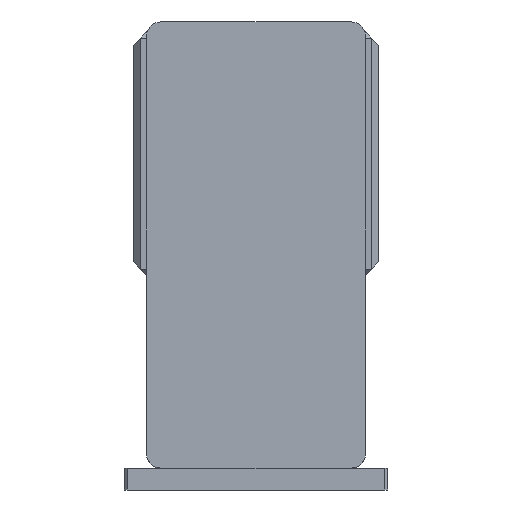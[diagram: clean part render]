
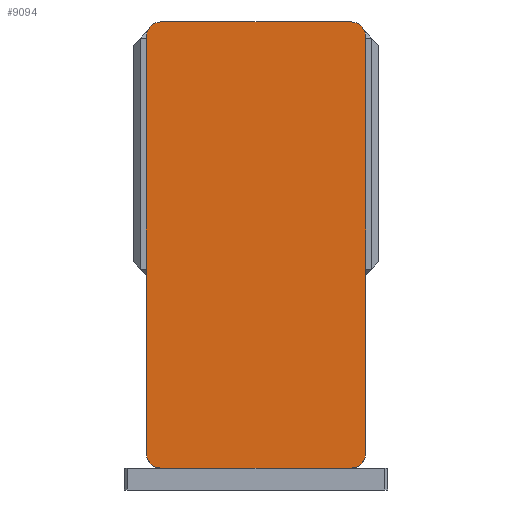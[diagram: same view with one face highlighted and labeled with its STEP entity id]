
A CAD part, left-side view. The second image highlights one B-rep face of the part: STEP entity #9094.
In plain terms, the highlighted planar face has unit normal (-1, 0, 0) as drawn and (0, 0, 1) by its records, which use the part's own axes.
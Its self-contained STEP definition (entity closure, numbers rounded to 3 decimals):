
#150 = DIRECTION ( 'NONE',  ( 0., 0., 1. ) ) ;
#344 = CIRCLE ( 'NONE', #9145, 10. ) ;
#1013 = CARTESIAN_POINT ( 'NONE',  ( -65., 142.5, 105. ) ) ;
#1556 = VERTEX_POINT ( 'NONE', #7847 ) ;
#1647 = ORIENTED_EDGE ( 'NONE', *, *, #9142, .T. ) ;
#1672 = CARTESIAN_POINT ( 'NONE',  ( -65., -152.5, 105. ) ) ;
#1958 = DIRECTION ( 'NONE',  ( 1., 0., 0. ) ) ;
#2082 = CARTESIAN_POINT ( 'NONE',  ( -65., 152.5, 105. ) ) ;
#2151 = CARTESIAN_POINT ( 'NONE',  ( 0., 0., 105. ) ) ;
#2171 = VECTOR ( 'NONE', #9953, 1000. ) ;
#2239 = DIRECTION ( 'NONE',  ( 1., 0., 0. ) ) ;
#2453 = VECTOR ( 'NONE', #2624, 1000. ) ;
#2624 = DIRECTION ( 'NONE',  ( -1., 0., 0. ) ) ;
#2668 = VERTEX_POINT ( 'NONE', #5539 ) ;
#2713 = DIRECTION ( 'NONE',  ( 0., 0., 1. ) ) ;
#3091 = DIRECTION ( 'NONE',  ( 1., 0., 0. ) ) ;
#3147 = LINE ( 'NONE', #9407, #5320 ) ;
#3274 = CIRCLE ( 'NONE', #8078, 10. ) ;
#3444 = VERTEX_POINT ( 'NONE', #1672 ) ;
#3804 = VERTEX_POINT ( 'NONE', #8431 ) ;
#4388 = DIRECTION ( 'NONE',  ( 0., 0., 1. ) ) ;
#4930 = DIRECTION ( 'NONE',  ( 0., -1., 0. ) ) ;
#5320 = VECTOR ( 'NONE', #4930, 1000. ) ;
#5539 = CARTESIAN_POINT ( 'NONE',  ( 65., -152.5, 105. ) ) ;
#5565 = VERTEX_POINT ( 'NONE', #9815 ) ;
#5753 = CARTESIAN_POINT ( 'NONE',  ( -65., -142.5, 105. ) ) ;
#5763 = LINE ( 'NONE', #5938, #10247 ) ;
#5938 = CARTESIAN_POINT ( 'NONE',  ( -75., -152.5, 105. ) ) ;
#6083 = ORIENTED_EDGE ( 'NONE', *, *, #9447, .T. ) ;
#6140 = CARTESIAN_POINT ( 'NONE',  ( -75., 142.5, 105. ) ) ;
#6334 = VERTEX_POINT ( 'NONE', #6140 ) ;
#6495 = ORIENTED_EDGE ( 'NONE', *, *, #6596, .T. ) ;
#6596 = EDGE_CURVE ( 'NONE', #3804, #1556, #11749, .T. ) ;
#6661 = DIRECTION ( 'NONE',  ( 1., 0., 0. ) ) ;
#7003 = ORIENTED_EDGE ( 'NONE', *, *, #9532, .T. ) ;
#7028 = LINE ( 'NONE', #7155, #2453 ) ;
#7155 = CARTESIAN_POINT ( 'NONE',  ( -75., 152.5, 105. ) ) ;
#7203 = CARTESIAN_POINT ( 'NONE',  ( 75., 152.5, 105. ) ) ;
#7223 = EDGE_CURVE ( 'NONE', #8552, #7705, #7028, .T. ) ;
#7408 = ORIENTED_EDGE ( 'NONE', *, *, #7223, .T. ) ;
#7432 = DIRECTION ( 'NONE',  ( 0., 0., 1. ) ) ;
#7612 = PLANE ( 'NONE',  #11644 ) ;
#7680 = ORIENTED_EDGE ( 'NONE', *, *, #9747, .T. ) ;
#7705 = VERTEX_POINT ( 'NONE', #2082 ) ;
#7847 = CARTESIAN_POINT ( 'NONE',  ( 75., 142.5, 105. ) ) ;
#7952 = ORIENTED_EDGE ( 'NONE', *, *, #8297, .T. ) ;
#7955 = CIRCLE ( 'NONE', #10134, 10. ) ;
#8078 = AXIS2_PLACEMENT_3D ( 'NONE', #5753, #150, #6661 ) ;
#8158 = CARTESIAN_POINT ( 'NONE',  ( 65., 142.5, 105. ) ) ;
#8297 = EDGE_CURVE ( 'NONE', #6334, #5565, #3147, .T. ) ;
#8401 = ORIENTED_EDGE ( 'NONE', *, *, #9810, .T. ) ;
#8431 = CARTESIAN_POINT ( 'NONE',  ( 75., -142.5, 105. ) ) ;
#8462 = AXIS2_PLACEMENT_3D ( 'NONE', #1013, #7432, #1958 ) ;
#8474 = EDGE_LOOP ( 'NONE', ( #1647, #6083, #6495, #7003, #7408, #7680, #7952, #8401 ) ) ;
#8528 = DIRECTION ( 'NONE',  ( 0., 0., 1. ) ) ;
#8552 = VERTEX_POINT ( 'NONE', #10602 ) ;
#8679 = CIRCLE ( 'NONE', #8462, 10. ) ;
#9086 = DIRECTION ( 'NONE',  ( 1., 0., 0. ) ) ;
#9094 = ADVANCED_FACE ( 'NONE', ( #11046 ), #7612, .T. ) ;
#9142 = EDGE_CURVE ( 'NONE', #3444, #2668, #5763, .T. ) ;
#9145 = AXIS2_PLACEMENT_3D ( 'NONE', #8158, #2713, #9086 ) ;
#9407 = CARTESIAN_POINT ( 'NONE',  ( -75., 152.5, 105. ) ) ;
#9447 = EDGE_CURVE ( 'NONE', #2668, #3804, #7955, .T. ) ;
#9532 = EDGE_CURVE ( 'NONE', #1556, #8552, #344, .T. ) ;
#9747 = EDGE_CURVE ( 'NONE', #7705, #6334, #8679, .T. ) ;
#9788 = CARTESIAN_POINT ( 'NONE',  ( 65., -142.5, 105. ) ) ;
#9810 = EDGE_CURVE ( 'NONE', #5565, #3444, #3274, .T. ) ;
#9815 = CARTESIAN_POINT ( 'NONE',  ( -75., -142.5, 105. ) ) ;
#9953 = DIRECTION ( 'NONE',  ( 0., 1., 0. ) ) ;
#10134 = AXIS2_PLACEMENT_3D ( 'NONE', #9788, #4388, #10672 ) ;
#10247 = VECTOR ( 'NONE', #2239, 1000. ) ;
#10602 = CARTESIAN_POINT ( 'NONE',  ( 65., 152.5, 105. ) ) ;
#10672 = DIRECTION ( 'NONE',  ( 1., 0., 0. ) ) ;
#11046 = FACE_OUTER_BOUND ( 'NONE', #8474, .T. ) ;
#11644 = AXIS2_PLACEMENT_3D ( 'NONE', #2151, #8528, #3091 ) ;
#11749 = LINE ( 'NONE', #7203, #2171 ) ;
